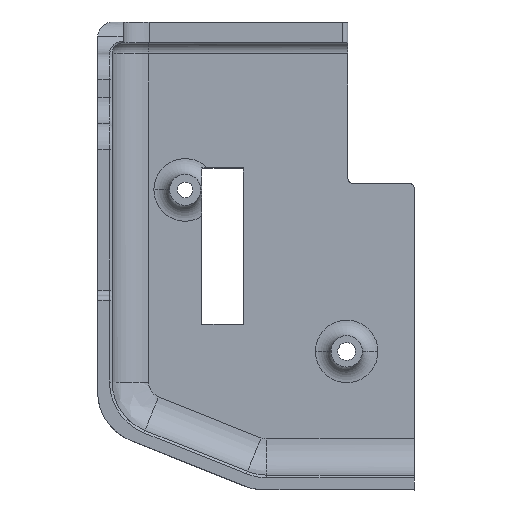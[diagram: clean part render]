
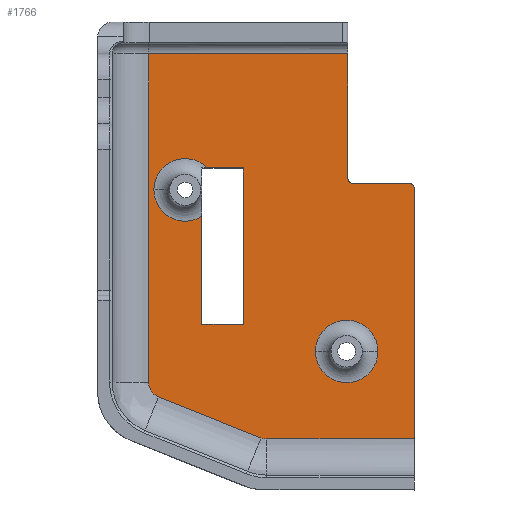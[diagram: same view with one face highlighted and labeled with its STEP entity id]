
A CAD part, top view. The second image highlights one B-rep face of the part: STEP entity #1766.
In plain terms, the highlighted planar face has unit normal (0, 0, 1).
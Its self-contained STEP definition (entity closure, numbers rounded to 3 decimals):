
#568=AXIS2_PLACEMENT_3D('Circle Axis2P3D',#566,#567,$) ;
#815=AXIS2_PLACEMENT_3D('Circle Axis2P3D',#813,#814,$) ;
#1099=AXIS2_PLACEMENT_3D('Circle Axis2P3D',#1097,#1098,$) ;
#1140=AXIS2_PLACEMENT_3D('Circle Axis2P3D',#1138,#1139,$) ;
#1165=AXIS2_PLACEMENT_3D('Circle Axis2P3D',#1163,#1164,$) ;
#1205=AXIS2_PLACEMENT_3D('Circle Axis2P3D',#1203,#1204,$) ;
#1704=AXIS2_PLACEMENT_3D('Plane Axis2P3D',#1701,#1702,#1703) ;
#1729=AXIS2_PLACEMENT_3D('Circle Axis2P3D',#1727,#1728,$) ;
#277=CARTESIAN_POINT('Vertex',(11.686,17.881,2.8)) ;
#293=CARTESIAN_POINT('Vertex',(31.351,10.015,2.8)) ;
#296=CARTESIAN_POINT('Line Origine',(33.139,9.299,2.8)) ;
#338=CARTESIAN_POINT('Vertex',(32.465,9.8,2.8)) ;
#342=CARTESIAN_POINT('Control Point',(31.351,10.015,2.8)) ;
#343=CARTESIAN_POINT('Control Point',(31.706,9.872,2.8)) ;
#344=CARTESIAN_POINT('Control Point',(32.082,9.8,2.8)) ;
#345=CARTESIAN_POINT('Control Point',(32.465,9.8,2.8)) ;
#363=CARTESIAN_POINT('Vertex',(60.8,9.8,2.8)) ;
#368=CARTESIAN_POINT('Line Origine',(60.8,9.8,2.8)) ;
#566=CARTESIAN_POINT('Axis2P3D Location',(59.8,57.8,2.8)) ;
#570=CARTESIAN_POINT('Vertex',(60.8,57.8,2.8)) ;
#572=CARTESIAN_POINT('Vertex',(59.8,58.8,2.8)) ;
#782=CARTESIAN_POINT('Line Origine',(54.425,58.8,2.8)) ;
#786=CARTESIAN_POINT('Vertex',(49.05,58.8,2.8)) ;
#810=CARTESIAN_POINT('Vertex',(48.05,59.8,2.8)) ;
#813=CARTESIAN_POINT('Axis2P3D Location',(49.05,59.8,2.8)) ;
#930=CARTESIAN_POINT('Vertex',(28.,31.8,2.8)) ;
#933=CARTESIAN_POINT('Line Origine',(28.,46.8,2.8)) ;
#937=CARTESIAN_POINT('Vertex',(28.,61.8,2.8)) ;
#961=CARTESIAN_POINT('Vertex',(20.,31.8,2.8)) ;
#964=CARTESIAN_POINT('Line Origine',(24.,31.8,2.8)) ;
#1044=CARTESIAN_POINT('Vertex',(20.,52.525,2.8)) ;
#1047=CARTESIAN_POINT('Line Origine',(20.,42.162,2.8)) ;
#1069=CARTESIAN_POINT('Line Origine',(24.542,61.8,2.8)) ;
#1073=CARTESIAN_POINT('Vertex',(21.085,61.8,2.8)) ;
#1097=CARTESIAN_POINT('Axis2P3D Location',(16.8,57.6,2.8)) ;
#1101=CARTESIAN_POINT('Vertex',(10.8,57.6,2.8)) ;
#1138=CARTESIAN_POINT('Axis2P3D Location',(16.8,57.6,2.8)) ;
#1163=CARTESIAN_POINT('Axis2P3D Location',(47.8,26.6,2.8)) ;
#1167=CARTESIAN_POINT('Vertex',(53.8,26.6,2.8)) ;
#1169=CARTESIAN_POINT('Vertex',(41.8,26.6,2.8)) ;
#1203=CARTESIAN_POINT('Axis2P3D Location',(47.8,26.6,2.8)) ;
#1631=CARTESIAN_POINT('Line Origine',(48.05,77.62,2.8)) ;
#1635=CARTESIAN_POINT('Vertex',(48.05,77.12,2.8)) ;
#1637=CARTESIAN_POINT('Vertex',(48.05,78.12,2.8)) ;
#1640=CARTESIAN_POINT('Line Origine',(48.05,68.46,2.8)) ;
#1649=CARTESIAN_POINT('Vertex',(48.05,83.8,2.8)) ;
#1652=CARTESIAN_POINT('Line Origine',(48.05,80.96,2.8)) ;
#1685=CARTESIAN_POINT('Vertex',(9.8,83.8,2.8)) ;
#1688=CARTESIAN_POINT('Line Origine',(28.925,83.8,2.8)) ;
#1701=CARTESIAN_POINT('Axis2P3D Location',(49.05,59.8,2.8)) ;
#1706=CARTESIAN_POINT('Line Origine',(9.8,80.46,2.8)) ;
#1710=CARTESIAN_POINT('Vertex',(9.8,77.12,2.8)) ;
#1713=CARTESIAN_POINT('Line Origine',(9.8,71.06,2.8)) ;
#1717=CARTESIAN_POINT('Vertex',(9.8,65.,2.8)) ;
#1720=CARTESIAN_POINT('Line Origine',(9.8,42.833,2.8)) ;
#1724=CARTESIAN_POINT('Vertex',(9.8,20.666,2.8)) ;
#1727=CARTESIAN_POINT('Axis2P3D Location',(12.8,20.666,2.8)) ;
#1732=CARTESIAN_POINT('Line Origine',(60.8,33.8,2.8)) ;
#297=DIRECTION('Vector Direction',(-0.928,0.371,0.)) ;
#369=DIRECTION('Vector Direction',(-1.,0.,0.)) ;
#567=DIRECTION('Axis2P3D Direction',(0.,0.,-1.)) ;
#783=DIRECTION('Vector Direction',(1.,0.,0.)) ;
#814=DIRECTION('Axis2P3D Direction',(0.,0.,-1.)) ;
#934=DIRECTION('Vector Direction',(0.,1.,0.)) ;
#965=DIRECTION('Vector Direction',(1.,0.,0.)) ;
#1048=DIRECTION('Vector Direction',(0.,-1.,0.)) ;
#1070=DIRECTION('Vector Direction',(-1.,0.,0.)) ;
#1098=DIRECTION('Axis2P3D Direction',(0.,0.,1.)) ;
#1139=DIRECTION('Axis2P3D Direction',(0.,0.,1.)) ;
#1164=DIRECTION('Axis2P3D Direction',(0.,0.,1.)) ;
#1204=DIRECTION('Axis2P3D Direction',(0.,0.,1.)) ;
#1632=DIRECTION('Vector Direction',(0.,-1.,0.)) ;
#1641=DIRECTION('Vector Direction',(0.,-1.,0.)) ;
#1653=DIRECTION('Vector Direction',(0.,-1.,0.)) ;
#1689=DIRECTION('Vector Direction',(1.,0.,0.)) ;
#1702=DIRECTION('Axis2P3D Direction',(0.,0.,1.)) ;
#1703=DIRECTION('Axis2P3D XDirection',(1.,0.,0.)) ;
#1707=DIRECTION('Vector Direction',(0.,-1.,0.)) ;
#1714=DIRECTION('Vector Direction',(0.,-1.,0.)) ;
#1721=DIRECTION('Vector Direction',(0.,-1.,0.)) ;
#1728=DIRECTION('Axis2P3D Direction',(0.,0.,1.)) ;
#1733=DIRECTION('Vector Direction',(0.,-1.,0.)) ;
#298=VECTOR('Line Direction',#297,1.) ;
#370=VECTOR('Line Direction',#369,1.) ;
#784=VECTOR('Line Direction',#783,1.) ;
#935=VECTOR('Line Direction',#934,1.) ;
#966=VECTOR('Line Direction',#965,1.) ;
#1049=VECTOR('Line Direction',#1048,1.) ;
#1071=VECTOR('Line Direction',#1070,1.) ;
#1633=VECTOR('Line Direction',#1632,1.) ;
#1642=VECTOR('Line Direction',#1641,1.) ;
#1654=VECTOR('Line Direction',#1653,1.) ;
#1690=VECTOR('Line Direction',#1689,1.) ;
#1708=VECTOR('Line Direction',#1707,1.) ;
#1715=VECTOR('Line Direction',#1714,1.) ;
#1722=VECTOR('Line Direction',#1721,1.) ;
#1734=VECTOR('Line Direction',#1733,1.) ;
#1738=ORIENTED_EDGE('',*,*,#1656,.T.) ;
#1739=ORIENTED_EDGE('',*,*,#1692,.T.) ;
#1740=ORIENTED_EDGE('',*,*,#1712,.F.) ;
#1741=ORIENTED_EDGE('',*,*,#1719,.T.) ;
#1742=ORIENTED_EDGE('',*,*,#1726,.T.) ;
#1743=ORIENTED_EDGE('',*,*,#1731,.T.) ;
#1744=ORIENTED_EDGE('',*,*,#300,.T.) ;
#1745=ORIENTED_EDGE('',*,*,#346,.T.) ;
#1746=ORIENTED_EDGE('',*,*,#372,.T.) ;
#1747=ORIENTED_EDGE('',*,*,#1736,.F.) ;
#1748=ORIENTED_EDGE('',*,*,#574,.T.) ;
#1749=ORIENTED_EDGE('',*,*,#788,.F.) ;
#1750=ORIENTED_EDGE('',*,*,#817,.F.) ;
#1751=ORIENTED_EDGE('',*,*,#1644,.F.) ;
#1752=ORIENTED_EDGE('',*,*,#1639,.T.) ;
#1755=ORIENTED_EDGE('',*,*,#1207,.T.) ;
#1756=ORIENTED_EDGE('',*,*,#1171,.T.) ;
#1759=ORIENTED_EDGE('',*,*,#1075,.F.) ;
#1760=ORIENTED_EDGE('',*,*,#939,.F.) ;
#1761=ORIENTED_EDGE('',*,*,#968,.F.) ;
#1762=ORIENTED_EDGE('',*,*,#1051,.F.) ;
#1763=ORIENTED_EDGE('',*,*,#1142,.T.) ;
#1764=ORIENTED_EDGE('',*,*,#1103,.T.) ;
#1757=FACE_BOUND('',#1754,.T.) ;
#1765=FACE_BOUND('',#1758,.T.) ;
#1766=ADVANCED_FACE('COVER_STOCK',(#1753,#1757,#1765),#1705,.T.) ;
#569=CIRCLE('generated circle',#568,1.) ;
#816=CIRCLE('generated circle',#815,1.) ;
#1100=CIRCLE('generated circle',#1099,6.) ;
#1141=CIRCLE('generated circle',#1140,6.) ;
#1166=CIRCLE('generated circle',#1165,6.) ;
#1206=CIRCLE('generated circle',#1205,6.) ;
#1730=CIRCLE('generated circle',#1729,3.) ;
#300=EDGE_CURVE('',#278,#294,#299,.F.) ;
#346=EDGE_CURVE('',#294,#339,#341,.T.) ;
#372=EDGE_CURVE('',#339,#364,#371,.F.) ;
#574=EDGE_CURVE('',#571,#573,#569,.F.) ;
#788=EDGE_CURVE('',#787,#573,#785,.T.) ;
#817=EDGE_CURVE('',#811,#787,#816,.F.) ;
#939=EDGE_CURVE('',#931,#938,#936,.T.) ;
#968=EDGE_CURVE('',#962,#931,#967,.T.) ;
#1051=EDGE_CURVE('',#1045,#962,#1050,.T.) ;
#1075=EDGE_CURVE('',#938,#1074,#1072,.T.) ;
#1103=EDGE_CURVE('',#1102,#1074,#1100,.F.) ;
#1142=EDGE_CURVE('',#1045,#1102,#1141,.F.) ;
#1171=EDGE_CURVE('',#1168,#1170,#1166,.F.) ;
#1207=EDGE_CURVE('',#1170,#1168,#1206,.F.) ;
#1639=EDGE_CURVE('',#1636,#1638,#1634,.F.) ;
#1644=EDGE_CURVE('',#1636,#811,#1643,.T.) ;
#1656=EDGE_CURVE('',#1638,#1650,#1655,.F.) ;
#1692=EDGE_CURVE('',#1650,#1686,#1691,.F.) ;
#1712=EDGE_CURVE('',#1711,#1686,#1709,.F.) ;
#1719=EDGE_CURVE('',#1711,#1718,#1716,.T.) ;
#1726=EDGE_CURVE('',#1718,#1725,#1723,.T.) ;
#1731=EDGE_CURVE('',#1725,#278,#1730,.T.) ;
#1736=EDGE_CURVE('',#571,#364,#1735,.T.) ;
#1737=EDGE_LOOP('',(#1738,#1739,#1740,#1741,#1742,#1743,#1744,#1745,#1746,#1747,#1748,#1749,#1750,#1751,#1752)) ;
#1754=EDGE_LOOP('',(#1755,#1756)) ;
#1758=EDGE_LOOP('',(#1759,#1760,#1761,#1762,#1763,#1764)) ;
#1753=FACE_OUTER_BOUND('',#1737,.T.) ;
#299=LINE('Line',#296,#298) ;
#371=LINE('Line',#368,#370) ;
#785=LINE('Line',#782,#784) ;
#936=LINE('Line',#933,#935) ;
#967=LINE('Line',#964,#966) ;
#1050=LINE('Line',#1047,#1049) ;
#1072=LINE('Line',#1069,#1071) ;
#1634=LINE('Line',#1631,#1633) ;
#1643=LINE('Line',#1640,#1642) ;
#1655=LINE('Line',#1652,#1654) ;
#1691=LINE('Line',#1688,#1690) ;
#1709=LINE('Line',#1706,#1708) ;
#1716=LINE('Line',#1713,#1715) ;
#1723=LINE('Line',#1720,#1722) ;
#1735=LINE('Line',#1732,#1734) ;
#1705=PLANE('',#1704) ;
#278=VERTEX_POINT('',#277) ;
#294=VERTEX_POINT('',#293) ;
#339=VERTEX_POINT('',#338) ;
#364=VERTEX_POINT('',#363) ;
#571=VERTEX_POINT('',#570) ;
#573=VERTEX_POINT('',#572) ;
#787=VERTEX_POINT('',#786) ;
#811=VERTEX_POINT('',#810) ;
#931=VERTEX_POINT('',#930) ;
#938=VERTEX_POINT('',#937) ;
#962=VERTEX_POINT('',#961) ;
#1045=VERTEX_POINT('',#1044) ;
#1074=VERTEX_POINT('',#1073) ;
#1102=VERTEX_POINT('',#1101) ;
#1168=VERTEX_POINT('',#1167) ;
#1170=VERTEX_POINT('',#1169) ;
#1636=VERTEX_POINT('',#1635) ;
#1638=VERTEX_POINT('',#1637) ;
#1650=VERTEX_POINT('',#1649) ;
#1686=VERTEX_POINT('',#1685) ;
#1711=VERTEX_POINT('',#1710) ;
#1718=VERTEX_POINT('',#1717) ;
#1725=VERTEX_POINT('',#1724) ;
#341=(BOUNDED_CURVE()B_SPLINE_CURVE(3,(#342,#343,#344,#345),.UNSPECIFIED.,.F.,.U.)B_SPLINE_CURVE_WITH_KNOTS((4,4),(0.,2.881),.UNSPECIFIED.)CURVE()GEOMETRIC_REPRESENTATION_ITEM()RATIONAL_B_SPLINE_CURVE((1.,0.988,0.988,1.))REPRESENTATION_ITEM('')) ;
